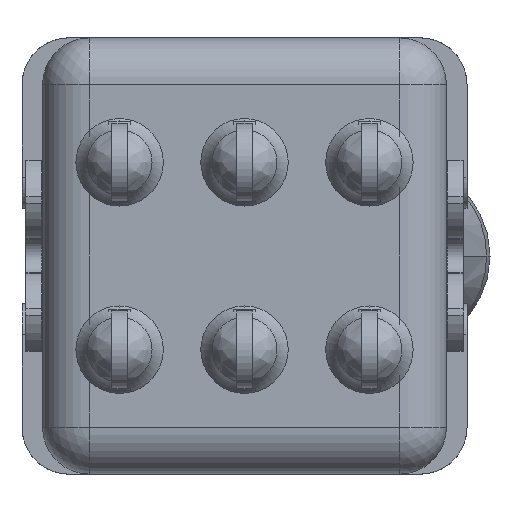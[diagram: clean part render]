
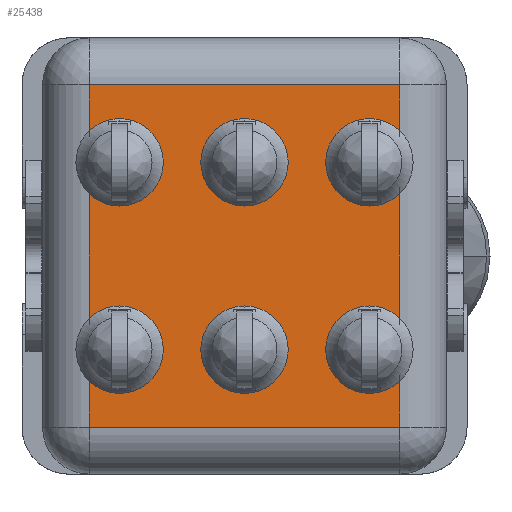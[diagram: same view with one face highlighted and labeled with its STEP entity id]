
A CAD part, front view. The second image highlights one B-rep face of the part: STEP entity #25438.
In plain terms, the highlighted planar face has unit normal (0, -1, 0).
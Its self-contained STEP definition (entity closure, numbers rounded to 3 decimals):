
#7122=CARTESIAN_POINT('',(-4.,-6.5,-3.));
#7123=DIRECTION('',(0.,1.,0.));
#7124=DIRECTION('',(0.,0.,-1.));
#7125=AXIS2_PLACEMENT_3D('',#7122,#7123,#7124);
#7127=CARTESIAN_POINT('',(-4.,-6.5,-3.));
#7128=DIRECTION('',(0.,1.,0.));
#7129=DIRECTION('',(0.,0.,1.));
#7130=AXIS2_PLACEMENT_3D('',#7127,#7128,#7129);
#7132=CARTESIAN_POINT('',(-4.,-6.5,-3.));
#7133=DIRECTION('',(0.,1.,0.));
#7134=DIRECTION('',(-0.689,0.,0.724));
#7135=AXIS2_PLACEMENT_3D('',#7132,#7133,#7134);
#7137=DIRECTION('',(0.,0.,1.));
#7138=VECTOR('',#7137,3.971);
#7139=CARTESIAN_POINT('',(-4.965,-6.5,-1.986));
#7140=LINE('',#7139,#7138);
#7141=CARTESIAN_POINT('',(-4.,-6.5,3.));
#7142=DIRECTION('',(0.,1.,0.));
#7143=DIRECTION('',(0.,0.,-1.));
#7144=AXIS2_PLACEMENT_3D('',#7141,#7142,#7143);
#7146=CARTESIAN_POINT('',(-4.,-6.5,3.));
#7147=DIRECTION('',(0.,1.,0.));
#7148=DIRECTION('',(0.,0.,1.));
#7149=AXIS2_PLACEMENT_3D('',#7146,#7147,#7148);
#7151=CARTESIAN_POINT('',(-4.,-6.5,3.));
#7152=DIRECTION('',(0.,1.,0.));
#7153=DIRECTION('',(-0.689,0.,0.724));
#7154=AXIS2_PLACEMENT_3D('',#7151,#7152,#7153);
#7156=DIRECTION('',(0.,0.,1.));
#7157=VECTOR('',#7156,1.471);
#7158=CARTESIAN_POINT('',(-4.965,-6.5,4.014));
#7159=LINE('',#7158,#7157);
#7160=DIRECTION('',(1.,0.,0.));
#7161=VECTOR('',#7160,9.93);
#7162=CARTESIAN_POINT('',(-4.965,-6.5,5.485));
#7163=LINE('',#7162,#7161);
#7164=DIRECTION('',(0.,0.,-1.));
#7165=VECTOR('',#7164,1.471);
#7166=CARTESIAN_POINT('',(4.965,-6.5,5.485));
#7167=LINE('',#7166,#7165);
#7168=CARTESIAN_POINT('',(4.,-6.5,3.));
#7169=DIRECTION('',(0.,1.,0.));
#7170=DIRECTION('',(0.,0.,1.));
#7171=AXIS2_PLACEMENT_3D('',#7168,#7169,#7170);
#7173=CARTESIAN_POINT('',(4.,-6.5,3.));
#7174=DIRECTION('',(0.,1.,0.));
#7175=DIRECTION('',(0.,0.,-1.));
#7176=AXIS2_PLACEMENT_3D('',#7173,#7174,#7175);
#7178=CARTESIAN_POINT('',(4.,-6.5,3.));
#7179=DIRECTION('',(0.,1.,0.));
#7180=DIRECTION('',(0.689,0.,-0.724));
#7181=AXIS2_PLACEMENT_3D('',#7178,#7179,#7180);
#7183=DIRECTION('',(0.,0.,-1.));
#7184=VECTOR('',#7183,3.971);
#7185=CARTESIAN_POINT('',(4.965,-6.5,1.986));
#7186=LINE('',#7185,#7184);
#7187=CARTESIAN_POINT('',(4.,-6.5,-3.));
#7188=DIRECTION('',(0.,1.,0.));
#7189=DIRECTION('',(0.,0.,1.));
#7190=AXIS2_PLACEMENT_3D('',#7187,#7188,#7189);
#7192=CARTESIAN_POINT('',(4.,-6.5,-3.));
#7193=DIRECTION('',(0.,1.,0.));
#7194=DIRECTION('',(0.,0.,-1.));
#7195=AXIS2_PLACEMENT_3D('',#7192,#7193,#7194);
#7197=CARTESIAN_POINT('',(4.,-6.5,-3.));
#7198=DIRECTION('',(0.,1.,0.));
#7199=DIRECTION('',(0.689,0.,-0.724));
#7200=AXIS2_PLACEMENT_3D('',#7197,#7198,#7199);
#7202=DIRECTION('',(0.,0.,-1.));
#7203=VECTOR('',#7202,1.471);
#7204=CARTESIAN_POINT('',(4.965,-6.5,-4.014));
#7205=LINE('',#7204,#7203);
#7206=DIRECTION('',(-1.,0.,0.));
#7207=VECTOR('',#7206,9.93);
#7208=CARTESIAN_POINT('',(4.965,-6.5,-5.485));
#7209=LINE('',#7208,#7207);
#7210=DIRECTION('',(0.,0.,1.));
#7211=VECTOR('',#7210,1.471);
#7212=CARTESIAN_POINT('',(-4.965,-6.5,-5.485));
#7213=LINE('',#7212,#7211);
#7214=CARTESIAN_POINT('',(0.,-6.5,3.));
#7215=DIRECTION('',(0.,1.,0.));
#7216=DIRECTION('',(0.,0.,1.));
#7217=AXIS2_PLACEMENT_3D('',#7214,#7215,#7216);
#7219=CARTESIAN_POINT('',(0.,-6.5,3.));
#7220=DIRECTION('',(0.,1.,0.));
#7221=DIRECTION('',(0.,0.,-1.));
#7222=AXIS2_PLACEMENT_3D('',#7219,#7220,#7221);
#7224=CARTESIAN_POINT('',(0.,-6.5,-3.));
#7225=DIRECTION('',(0.,1.,0.));
#7226=DIRECTION('',(0.,0.,1.));
#7227=AXIS2_PLACEMENT_3D('',#7224,#7225,#7226);
#7229=CARTESIAN_POINT('',(0.,-6.5,-3.));
#7230=DIRECTION('',(0.,1.,0.));
#7231=DIRECTION('',(0.,0.,-1.));
#7232=AXIS2_PLACEMENT_3D('',#7229,#7230,#7231);
#16599=CARTESIAN_POINT('',(4.965,-6.5,-5.485));
#16600=CARTESIAN_POINT('',(-4.965,-6.5,-5.485));
#16601=VERTEX_POINT('',#16599);
#16602=VERTEX_POINT('',#16600);
#16609=CARTESIAN_POINT('',(-4.965,-6.5,5.485));
#16610=CARTESIAN_POINT('',(4.965,-6.5,5.485));
#16611=VERTEX_POINT('',#16609);
#16612=VERTEX_POINT('',#16610);
#18445=CARTESIAN_POINT('',(-4.,-6.5,4.4));
#18446=CARTESIAN_POINT('',(-4.,-6.5,1.6));
#18447=VERTEX_POINT('',#18445);
#18448=VERTEX_POINT('',#18446);
#18449=CARTESIAN_POINT('',(-4.965,-6.5,1.986));
#18450=VERTEX_POINT('',#18449);
#18451=CARTESIAN_POINT('',(-4.965,-6.5,4.014));
#18452=VERTEX_POINT('',#18451);
#18479=CARTESIAN_POINT('',(0.,-6.5,4.4));
#18480=CARTESIAN_POINT('',(0.,-6.5,1.6));
#18481=VERTEX_POINT('',#18479);
#18482=VERTEX_POINT('',#18480);
#18509=CARTESIAN_POINT('',(4.,-6.5,4.4));
#18510=CARTESIAN_POINT('',(4.965,-6.5,4.014));
#18511=VERTEX_POINT('',#18509);
#18512=VERTEX_POINT('',#18510);
#18513=CARTESIAN_POINT('',(4.965,-6.5,1.986));
#18514=CARTESIAN_POINT('',(4.,-6.5,1.6));
#18515=VERTEX_POINT('',#18513);
#18516=VERTEX_POINT('',#18514);
#18543=CARTESIAN_POINT('',(4.,-6.5,-1.6));
#18544=CARTESIAN_POINT('',(4.965,-6.5,-1.986));
#18545=VERTEX_POINT('',#18543);
#18546=VERTEX_POINT('',#18544);
#18547=CARTESIAN_POINT('',(4.965,-6.5,-4.014));
#18548=CARTESIAN_POINT('',(4.,-6.5,-4.4));
#18549=VERTEX_POINT('',#18547);
#18550=VERTEX_POINT('',#18548);
#18577=CARTESIAN_POINT('',(0.,-6.5,-1.6));
#18578=CARTESIAN_POINT('',(0.,-6.5,-4.4));
#18579=VERTEX_POINT('',#18577);
#18580=VERTEX_POINT('',#18578);
#18607=CARTESIAN_POINT('',(-4.,-6.5,-4.4));
#18608=CARTESIAN_POINT('',(-4.965,-6.5,-4.014));
#18609=VERTEX_POINT('',#18607);
#18610=VERTEX_POINT('',#18608);
#18611=CARTESIAN_POINT('',(-4.965,-6.5,-1.986));
#18612=CARTESIAN_POINT('',(-4.,-6.5,-1.6));
#18613=VERTEX_POINT('',#18611);
#18614=VERTEX_POINT('',#18612);
#25384=CARTESIAN_POINT('',(-6.465,-6.5,-6.985));
#25385=DIRECTION('',(0.,-1.,0.));
#25386=DIRECTION('',(1.,0.,0.));
#25387=AXIS2_PLACEMENT_3D('',#25384,#25385,#25386);
#25388=PLANE('',#25387);
#25389=ORIENTED_EDGE('',*,*,#25362,.F.);
#25391=ORIENTED_EDGE('',*,*,#25390,.F.);
#25392=ORIENTED_EDGE('',*,*,#25365,.F.);
#25393=ORIENTED_EDGE('',*,*,#25341,.T.);
#25395=ORIENTED_EDGE('',*,*,#25394,.F.);
#25397=ORIENTED_EDGE('',*,*,#25396,.F.);
#25399=ORIENTED_EDGE('',*,*,#25398,.F.);
#25400=ORIENTED_EDGE('',*,*,#25337,.T.);
#25402=ORIENTED_EDGE('',*,*,#25401,.T.);
#25404=ORIENTED_EDGE('',*,*,#25403,.T.);
#25406=ORIENTED_EDGE('',*,*,#25405,.F.);
#25408=ORIENTED_EDGE('',*,*,#25407,.F.);
#25410=ORIENTED_EDGE('',*,*,#25409,.F.);
#25412=ORIENTED_EDGE('',*,*,#25411,.T.);
#25414=ORIENTED_EDGE('',*,*,#25413,.F.);
#25416=ORIENTED_EDGE('',*,*,#25415,.F.);
#25418=ORIENTED_EDGE('',*,*,#25417,.F.);
#25420=ORIENTED_EDGE('',*,*,#25419,.T.);
#25422=ORIENTED_EDGE('',*,*,#25421,.T.);
#25423=ORIENTED_EDGE('',*,*,#25330,.T.);
#25424=EDGE_LOOP('',(#25389,#25391,#25392,#25393,#25395,#25397,#25399,#25400,
#25402,#25404,#25406,#25408,#25410,#25412,#25414,#25416,#25418,#25420,#25422,
#25423));
#25425=FACE_OUTER_BOUND('',#25424,.F.);
#25427=ORIENTED_EDGE('',*,*,#25426,.F.);
#25429=ORIENTED_EDGE('',*,*,#25428,.F.);
#25430=EDGE_LOOP('',(#25427,#25429));
#25431=FACE_BOUND('',#25430,.F.);
#25433=ORIENTED_EDGE('',*,*,#25432,.F.);
#25435=ORIENTED_EDGE('',*,*,#25434,.F.);
#25436=EDGE_LOOP('',(#25433,#25435));
#25437=FACE_BOUND('',#25436,.F.);
#25438=ADVANCED_FACE('',(#25425,#25431,#25437),#25388,.T.);
#7126=CIRCLE('',#7125,1.4);
#7131=CIRCLE('',#7130,1.4);
#7136=CIRCLE('',#7135,1.4);
#7145=CIRCLE('',#7144,1.4);
#7150=CIRCLE('',#7149,1.4);
#7155=CIRCLE('',#7154,1.4);
#7172=CIRCLE('',#7171,1.4);
#7177=CIRCLE('',#7176,1.4);
#7182=CIRCLE('',#7181,1.4);
#7191=CIRCLE('',#7190,1.4);
#7196=CIRCLE('',#7195,1.4);
#7201=CIRCLE('',#7200,1.4);
#7218=CIRCLE('',#7217,1.4);
#7223=CIRCLE('',#7222,1.4);
#7228=CIRCLE('',#7227,1.4);
#7233=CIRCLE('',#7232,1.4);
#25330=EDGE_CURVE('',#16602,#18610,#7213,.T.);
#25337=EDGE_CURVE('',#18452,#16611,#7159,.T.);
#25341=EDGE_CURVE('',#18613,#18450,#7140,.T.);
#25362=EDGE_CURVE('',#18609,#18610,#7126,.T.);
#25365=EDGE_CURVE('',#18613,#18614,#7136,.T.);
#25390=EDGE_CURVE('',#18614,#18609,#7131,.T.);
#25394=EDGE_CURVE('',#18448,#18450,#7145,.T.);
#25396=EDGE_CURVE('',#18447,#18448,#7150,.T.);
#25398=EDGE_CURVE('',#18452,#18447,#7155,.T.);
#25401=EDGE_CURVE('',#16611,#16612,#7163,.T.);
#25403=EDGE_CURVE('',#16612,#18512,#7167,.T.);
#25405=EDGE_CURVE('',#18511,#18512,#7172,.T.);
#25407=EDGE_CURVE('',#18516,#18511,#7177,.T.);
#25409=EDGE_CURVE('',#18515,#18516,#7182,.T.);
#25411=EDGE_CURVE('',#18515,#18546,#7186,.T.);
#25413=EDGE_CURVE('',#18545,#18546,#7191,.T.);
#25415=EDGE_CURVE('',#18550,#18545,#7196,.T.);
#25417=EDGE_CURVE('',#18549,#18550,#7201,.T.);
#25419=EDGE_CURVE('',#18549,#16601,#7205,.T.);
#25421=EDGE_CURVE('',#16601,#16602,#7209,.T.);
#25426=EDGE_CURVE('',#18481,#18482,#7218,.T.);
#25428=EDGE_CURVE('',#18482,#18481,#7223,.T.);
#25432=EDGE_CURVE('',#18579,#18580,#7228,.T.);
#25434=EDGE_CURVE('',#18580,#18579,#7233,.T.);
